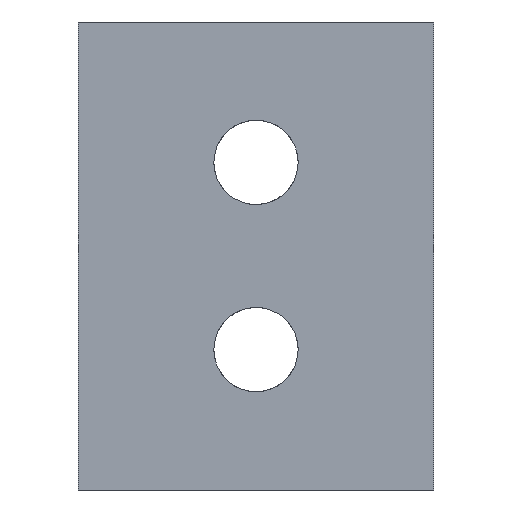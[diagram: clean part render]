
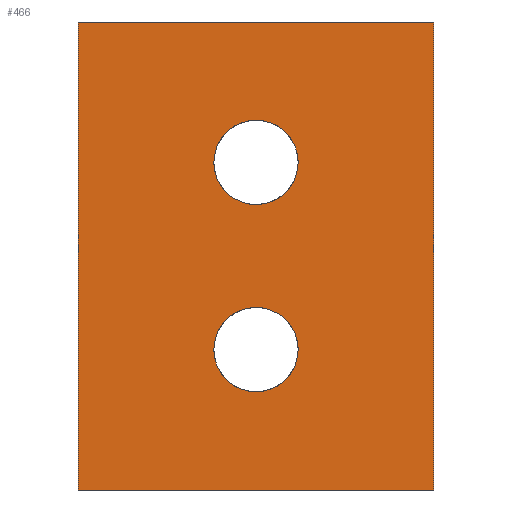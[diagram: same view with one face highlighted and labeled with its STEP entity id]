
A CAD part, front view. The second image highlights one B-rep face of the part: STEP entity #466.
In plain terms, the highlighted face is a extrusion surface.
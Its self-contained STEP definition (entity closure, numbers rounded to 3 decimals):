
#355=CARTESIAN_POINT('Control Point',(-38.,0.,0.)) ;
#356=CARTESIAN_POINT('Control Point',(-38.,0.,-50.)) ;
#360=CARTESIAN_POINT('Line Origine',(-19.,0.,-50.)) ;
#364=CARTESIAN_POINT('Vertex',(-38.,0.,-50.)) ;
#366=CARTESIAN_POINT('Vertex',(0.,0.,-50.)) ;
#369=CARTESIAN_POINT('Line Origine',(0.,0.,-25.)) ;
#373=CARTESIAN_POINT('Vertex',(0.,0.,0.)) ;
#376=CARTESIAN_POINT('Line Origine',(-19.,0.,0.)) ;
#380=CARTESIAN_POINT('Vertex',(-38.,0.,0.)) ;
#383=CARTESIAN_POINT('Line Origine',(-38.,0.,-25.)) ;
#395=CARTESIAN_POINT('Control Point',(-14.5,0.,-35.)) ;
#396=CARTESIAN_POINT('Control Point',(-14.5,0.,-36.247)) ;
#397=CARTESIAN_POINT('Control Point',(-14.932,0.,-37.494)) ;
#398=CARTESIAN_POINT('Control Point',(-15.8,0.,-38.539)) ;
#399=CARTESIAN_POINT('Control Point',(-17.71,0.,-39.63)) ;
#400=CARTESIAN_POINT('Control Point',(-19.841,0.,-39.54)) ;
#401=CARTESIAN_POINT('Control Point',(-20.671,0.,-39.305)) ;
#402=CARTESIAN_POINT('Control Point',(-22.085,0.,-38.511)) ;
#403=CARTESIAN_POINT('Control Point',(-23.032,0.,-37.204)) ;
#404=CARTESIAN_POINT('Control Point',(-23.344,0.,-36.498)) ;
#405=CARTESIAN_POINT('Control Point',(-23.5,0.,-35.749)) ;
#406=CARTESIAN_POINT('Control Point',(-23.5,0.,-35.)) ;
#407=CARTESIAN_POINT('Vertex',(-14.5,0.,-35.)) ;
#409=CARTESIAN_POINT('Vertex',(-23.5,0.,-35.)) ;
#413=CARTESIAN_POINT('Control Point',(-23.5,0.,-35.)) ;
#414=CARTESIAN_POINT('Control Point',(-23.5,0.,-33.753)) ;
#415=CARTESIAN_POINT('Control Point',(-23.068,0.,-32.506)) ;
#416=CARTESIAN_POINT('Control Point',(-22.2,0.,-31.461)) ;
#417=CARTESIAN_POINT('Control Point',(-20.29,0.,-30.37)) ;
#418=CARTESIAN_POINT('Control Point',(-18.159,0.,-30.46)) ;
#419=CARTESIAN_POINT('Control Point',(-17.329,0.,-30.695)) ;
#420=CARTESIAN_POINT('Control Point',(-15.915,0.,-31.489)) ;
#421=CARTESIAN_POINT('Control Point',(-14.968,0.,-32.796)) ;
#422=CARTESIAN_POINT('Control Point',(-14.656,0.,-33.502)) ;
#423=CARTESIAN_POINT('Control Point',(-14.5,0.,-34.251)) ;
#424=CARTESIAN_POINT('Control Point',(-14.5,0.,-35.)) ;
#431=CARTESIAN_POINT('Control Point',(-14.5,0.,-15.)) ;
#432=CARTESIAN_POINT('Control Point',(-14.5,0.,-16.247)) ;
#433=CARTESIAN_POINT('Control Point',(-14.932,0.,-17.494)) ;
#434=CARTESIAN_POINT('Control Point',(-15.8,0.,-18.539)) ;
#435=CARTESIAN_POINT('Control Point',(-17.71,0.,-19.63)) ;
#436=CARTESIAN_POINT('Control Point',(-19.841,0.,-19.54)) ;
#437=CARTESIAN_POINT('Control Point',(-20.671,0.,-19.305)) ;
#438=CARTESIAN_POINT('Control Point',(-22.085,0.,-18.511)) ;
#439=CARTESIAN_POINT('Control Point',(-23.032,0.,-17.204)) ;
#440=CARTESIAN_POINT('Control Point',(-23.344,0.,-16.498)) ;
#441=CARTESIAN_POINT('Control Point',(-23.5,0.,-15.749)) ;
#442=CARTESIAN_POINT('Control Point',(-23.5,0.,-15.)) ;
#443=CARTESIAN_POINT('Vertex',(-14.5,0.,-15.)) ;
#445=CARTESIAN_POINT('Vertex',(-23.5,0.,-15.)) ;
#449=CARTESIAN_POINT('Control Point',(-23.5,0.,-15.)) ;
#450=CARTESIAN_POINT('Control Point',(-23.5,0.,-13.753)) ;
#451=CARTESIAN_POINT('Control Point',(-23.068,0.,-12.506)) ;
#452=CARTESIAN_POINT('Control Point',(-22.2,0.,-11.461)) ;
#453=CARTESIAN_POINT('Control Point',(-20.29,0.,-10.37)) ;
#454=CARTESIAN_POINT('Control Point',(-18.159,0.,-10.46)) ;
#455=CARTESIAN_POINT('Control Point',(-17.329,0.,-10.695)) ;
#456=CARTESIAN_POINT('Control Point',(-15.915,0.,-11.489)) ;
#457=CARTESIAN_POINT('Control Point',(-14.968,0.,-12.796)) ;
#458=CARTESIAN_POINT('Control Point',(-14.656,0.,-13.502)) ;
#459=CARTESIAN_POINT('Control Point',(-14.5,0.,-14.251)) ;
#460=CARTESIAN_POINT('Control Point',(-14.5,0.,-15.)) ;
#357=DIRECTION('Vector Direction',(1.,0.,0.)) ;
#361=DIRECTION('Vector Direction',(1.,0.,0.)) ;
#370=DIRECTION('Vector Direction',(0.,0.,-1.)) ;
#377=DIRECTION('Vector Direction',(1.,0.,0.)) ;
#384=DIRECTION('Vector Direction',(0.,0.,-1.)) ;
#389=ORIENTED_EDGE('',*,*,#368,.T.) ;
#390=ORIENTED_EDGE('',*,*,#375,.T.) ;
#391=ORIENTED_EDGE('',*,*,#382,.T.) ;
#392=ORIENTED_EDGE('',*,*,#387,.T.) ;
#427=ORIENTED_EDGE('',*,*,#411,.T.) ;
#428=ORIENTED_EDGE('',*,*,#425,.T.) ;
#463=ORIENTED_EDGE('',*,*,#447,.T.) ;
#464=ORIENTED_EDGE('',*,*,#461,.T.) ;
#429=FACE_BOUND('',#426,.T.) ;
#465=FACE_BOUND('',#462,.T.) ;
#358=VECTOR('Extrusion Surface Vector',#357,1.) ;
#362=VECTOR('Line Direction',#361,1.) ;
#371=VECTOR('Line Direction',#370,1.) ;
#378=VECTOR('Line Direction',#377,1.) ;
#385=VECTOR('Line Direction',#384,1.) ;
#466=ADVANCED_FACE('Superficie.6',(#393,#429,#465),#359,.T.) ;
#354=B_SPLINE_CURVE_WITH_KNOTS('',1,(#355,#356),.UNSPECIFIED.,.F.,.U.,(2,2),(-25.,25.),.UNSPECIFIED.) ;
#394=B_SPLINE_CURVE_WITH_KNOTS('',5,(#395,#396,#397,#398,#399,#400,#401,#402,#403,#404,#405,#406),.UNSPECIFIED.,.F.,.U.,(6,3,3,6),(0.,8.818,14.697,19.993),.UNSPECIFIED.) ;
#412=B_SPLINE_CURVE_WITH_KNOTS('',5,(#413,#414,#415,#416,#417,#418,#419,#420,#421,#422,#423,#424),.UNSPECIFIED.,.F.,.U.,(6,3,3,6),(0.,8.818,14.697,19.993),.UNSPECIFIED.) ;
#430=B_SPLINE_CURVE_WITH_KNOTS('',5,(#431,#432,#433,#434,#435,#436,#437,#438,#439,#440,#441,#442),.UNSPECIFIED.,.F.,.U.,(6,3,3,6),(0.,8.818,14.697,19.993),.UNSPECIFIED.) ;
#448=B_SPLINE_CURVE_WITH_KNOTS('',5,(#449,#450,#451,#452,#453,#454,#455,#456,#457,#458,#459,#460),.UNSPECIFIED.,.F.,.U.,(6,3,3,6),(0.,8.818,14.697,19.993),.UNSPECIFIED.) ;
#368=EDGE_CURVE('',#365,#367,#363,.T.) ;
#375=EDGE_CURVE('',#367,#374,#372,.F.) ;
#382=EDGE_CURVE('',#374,#381,#379,.F.) ;
#387=EDGE_CURVE('',#381,#365,#386,.T.) ;
#411=EDGE_CURVE('',#408,#410,#394,.T.) ;
#425=EDGE_CURVE('',#410,#408,#412,.T.) ;
#447=EDGE_CURVE('',#444,#446,#430,.T.) ;
#461=EDGE_CURVE('',#446,#444,#448,.T.) ;
#388=EDGE_LOOP('',(#389,#390,#391,#392)) ;
#426=EDGE_LOOP('',(#427,#428)) ;
#462=EDGE_LOOP('',(#463,#464)) ;
#393=FACE_OUTER_BOUND('',#388,.T.) ;
#363=LINE('Line',#360,#362) ;
#372=LINE('Line',#369,#371) ;
#379=LINE('Line',#376,#378) ;
#386=LINE('Line',#383,#385) ;
#359=SURFACE_OF_LINEAR_EXTRUSION('generated tabulated cylinder',#354,#358) ;
#365=VERTEX_POINT('',#364) ;
#367=VERTEX_POINT('',#366) ;
#374=VERTEX_POINT('',#373) ;
#381=VERTEX_POINT('',#380) ;
#408=VERTEX_POINT('',#407) ;
#410=VERTEX_POINT('',#409) ;
#444=VERTEX_POINT('',#443) ;
#446=VERTEX_POINT('',#445) ;
